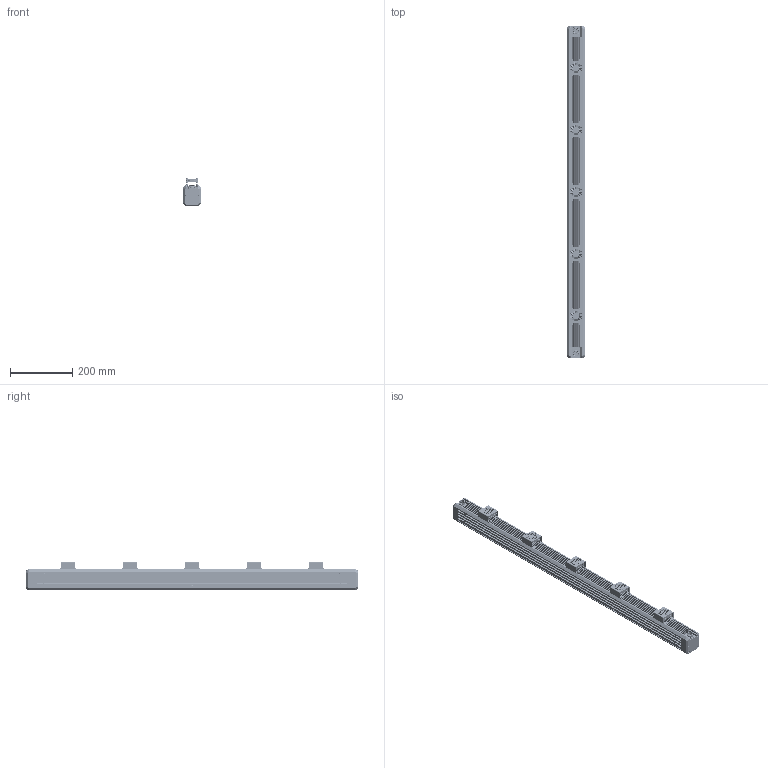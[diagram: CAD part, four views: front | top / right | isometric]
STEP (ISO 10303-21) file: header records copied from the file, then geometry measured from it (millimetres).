
FILE_DESCRIPTION((''),'2;1');
FILE_NAME('MV-LTDS-H-1000-W','2022-09-02T16:56:52',('huguozhe'),(''),'CREO PARAMETRIC BY PTC INC, 2020044','CREO PARAMETRIC BY PTC INC, 2020044','');
FILE_SCHEMA(('AUTOMOTIVE_DESIGN { 1 0 10303 214 1 1 1 1 }'));
Products named in the file (1): MV-LTDS-H-1000-W
Bounding box: 58 x 1070 x 90.6 mm (x, y, z)
Volume: 2907094.9 mm3; surface area: 876723.8 mm2
Topology: 1 solids, 319 shells, 6719 faces, 17133 edges, 10540 vertices
Faces by surface type: plane 3181, cylinder 2298, cone 654, torus 342, bspline 204, sphere 40
Entity records: 250185 total; most frequent: CARTESIAN_POINT 56648, DIRECTION 35043, ORIENTED_EDGE 32698, EDGE_CURVE 16721, AXIS2_PLACEMENT_3D 13324, VERTEX_POINT 10540, VECTOR 8395, LINE 8395
